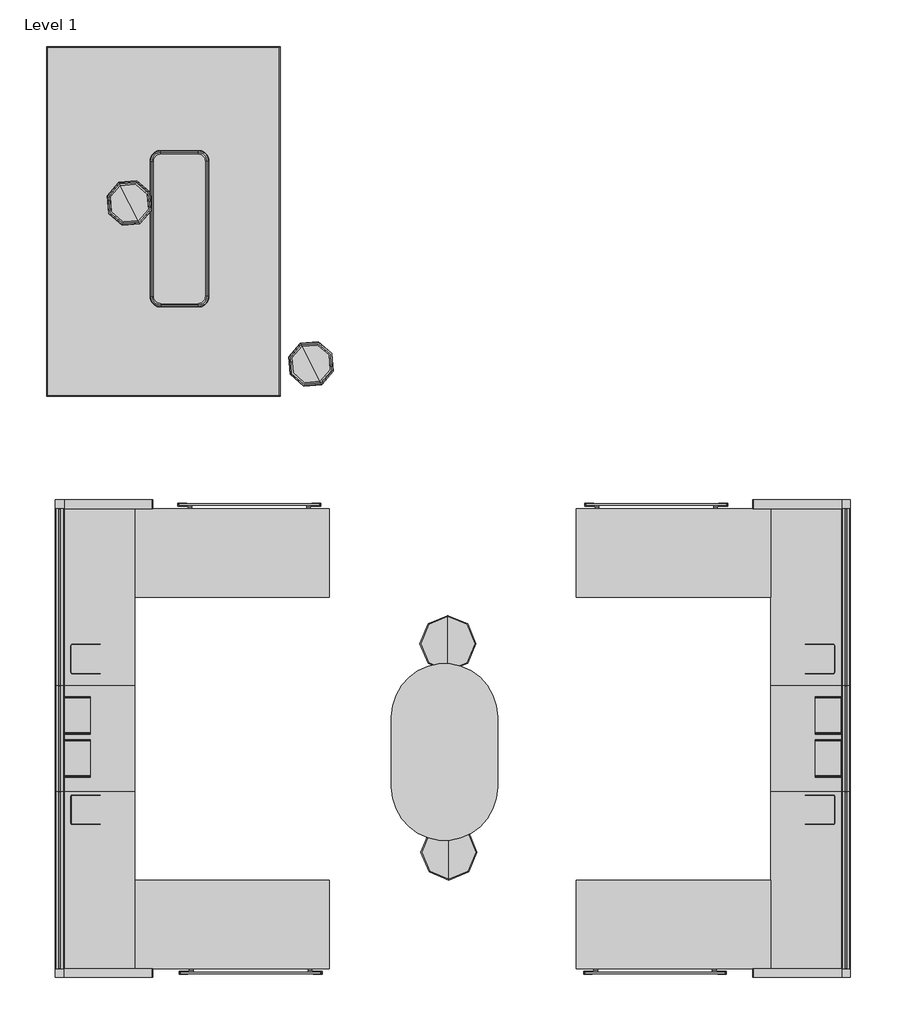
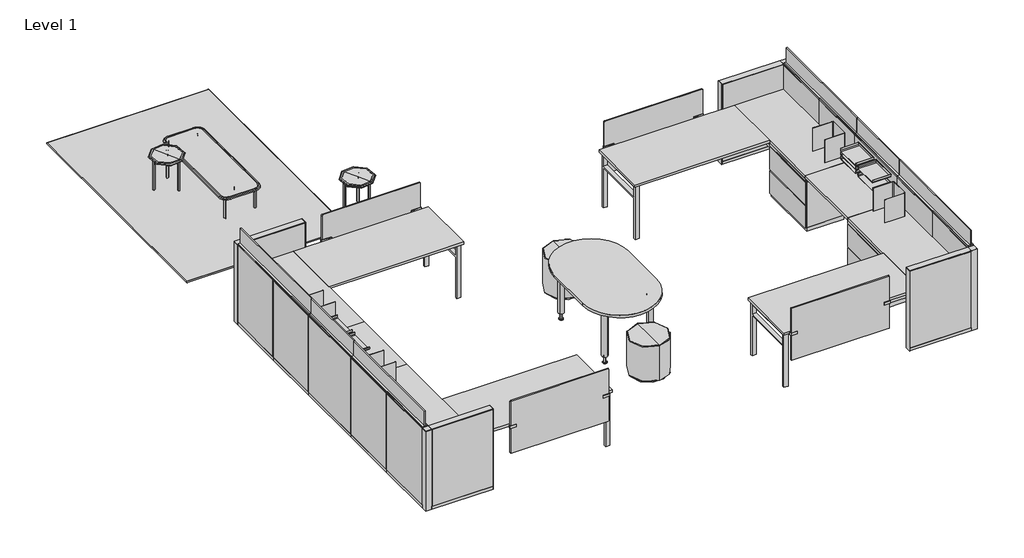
# One storey, incomplete: 65 furniture elements.
"""IFC4 building model written with IfcOpenShell, lengths in millimetres."""

from ifc_helpers import new_model, si_unit, origin, place, context, project, spatial, transform, mapped, element, save
from components import furniture_608d79b6, furniture_7d3a10d5, furniture_90913c63, furniture_8b4d0ae7, furniture_38547229, furniture_16in_d_table_f877d0f4, furniture_24d_36w_b6dfe4a4, furniture_24d_36w_c37be17f, furniture_24d_60w_d971fc55, furniture_24d_60w_0d21047a, furniture_66l_30w_afd0f819, furniture_66l_30w_0c5df5db, haworth_belong_cubby_de75faa0, haworth_belong_cubby_aa74167b, haworth_belong_screen_special_back_or_end_screen_74b999c0, haworth_belong_screen_special_back_or_end_screen_09786dff, haworth_belong_tool_trayshelf_hanging_document_tray_419b277c, haworth_belong_tool_trayshelf_hanging_document_tray_81856eff, haworth_compose_panel_post_42h_90_degree_03610c70, haworth_compose_panel_post_42h_90_degree_3cbd3f14, haworth_compose_panel_solid_42h_30w_ff8150bf, haworth_compose_panel_solid_42h_30w_9003e319, haworth_compose_panel_solid_42h_30w_4c1c5ae4, haworth_compose_panel_solid_42h_30w_888dd31b, haworth_compose_panel_solid_42h_30w_a400c964, haworth_compose_panel_solid_42h_30w_086e4ea6, haworth_compose_panel_solid_42h_36w_34ccc55c, haworth_compose_panel_solid_42h_36w_8f605ba9, haworth_compose_panel_stackframelessglass_8h_36w_6a189481, haworth_compose_panel_stackframelessglass_8h_36w_3db198fe, haworth_compose_panel_stackframelessglass_8h_60w_76307441, haworth_compose_panel_stackframelessglass_8h_60w_c9df2e2f, haworth_compose_worksurface_rectangular_60w_24d_c3f7eb78, haworth_compose_worksurface_rectangular_60w_24d_ae5aded8, rectangle_93412eb4

model = new_model("IFC4")

# Units and contexts
model_context = context("Model", 3, world=origin())
ifc_project = project(units=[si_unit("LENGTHUNIT", "METRE", prefix="MILLI")], contexts=[model_context])

# Site, building, storey
site = spatial("IfcSite", under=ifc_project)
building = spatial("IfcBuilding", under=site)
storey = spatial("IfcBuildingStorey", under=building, Name="Level 1", Elevation=0.0)

# Furniture
placement = place(None, origin())
furniture_shape = furniture_608d79b6(model_context)
element("IfcFurniture", 1, ObjectType="Haworth_GAN_Cord_Rugs : HCGN-COAR-P Area Rug", at=placement, inside=storey, context=model_context, shape_type="MappedRepresentation", body=[
    mapped(furniture_shape, transform((5308.8499608, 22451.5916897, 0.0), x_axis=(0.0, 1.0, 0.0), y_axis=(-1.0, 0.0, 0.0), z_axis=(0.0, 0.0, 1.0))),
])
furniture_2_shape = furniture_7d3a10d5(model_context)
element("IfcFurniture", 2, ObjectType="Haworth_BuzziSpot : HCBZ-STPF-2", at=placement, inside=storey, context=model_context, shape_type="MappedRepresentation", body=[
    mapped(furniture_2_shape, transform((7189.0356873, 19970.6411939, 0.0), x_axis=(1.0, 0.0, 0.0), y_axis=(0.0, 1.0, 0.0), z_axis=(0.0, 0.0, 1.0))),
])
element("IfcFurniture", 3, ObjectType="Haworth_BuzziSpot : HCBZ-STPF-2", at=placement, inside=storey, context=model_context, shape_type="MappedRepresentation", body=[
    mapped(furniture_2_shape, transform((7198.4479844, 18173.2341909, 0.0), x_axis=(1.0, 0.0, 0.0), y_axis=(0.0, 1.0, 0.0), z_axis=(0.0, 0.0, 1.0))),
])
furniture_3_shape = furniture_90913c63(model_context)
element("IfcFurniture", 4, ObjectType="Haworth_XSeries_LateralFile : 18d 30w 27h - Proud Style", at=placement, inside=storey, context=model_context, shape_type="MappedRepresentation", body=[
    mapped(furniture_3_shape, transform((11018.7053931, 18358.6504113, 0.0), x_axis=(0.0, -1.0, 0.0), y_axis=(1.0, 0.0, 0.0), z_axis=(0.0, 0.0, 1.0))),
])
element("IfcFurniture", 5, ObjectType="Haworth_XSeries_LateralFile : 18d 30w 27h - Proud Style", at=placement, inside=storey, context=model_context, shape_type="MappedRepresentation", body=[
    mapped(furniture_3_shape, transform((4587.3900706, 20031.8754113, 0.0), x_axis=(0.0, 1.0, 0.0), y_axis=(-1.0, 0.0, 0.0), z_axis=(0.0, 0.0, 1.0))),
])
furniture_4_shape = furniture_8b4d0ae7(model_context)
element("IfcFurniture", 6, ObjectType="Haworth_XSeries_LateralFile : 18d 30w 27h - Proud Style", at=placement, inside=storey, context=model_context, shape_type="MappedRepresentation", body=[
    mapped(furniture_4_shape, transform((11018.7053931, 20031.8754113, 0.0), x_axis=(0.0, 1.0, 0.0), y_axis=(-1.0, 0.0, 0.0), z_axis=(0.0, 0.0, 1.0))),
])
element("IfcFurniture", 7, ObjectType="Haworth_XSeries_LateralFile : 18d 30w 27h - Proud Style", at=placement, inside=storey, context=model_context, shape_type="MappedRepresentation", body=[
    mapped(furniture_4_shape, transform((4587.3900706, 18358.6504113, 0.0), x_axis=(0.0, -1.0, 0.0), y_axis=(1.0, 0.0, 0.0), z_axis=(0.0, 0.0, 1.0))),
])
furniture_5_shape = furniture_38547229(model_context)
element("IfcFurniture", 8, ObjectType="Haworth_JiveTable_RacetrackLegs : 36d 60w 29h - Post Round Base - With Glides", at=placement, inside=storey, context=model_context, shape_type="MappedRepresentation", body=[
    mapped(furniture_5_shape, transform((7731.7219438, 19079.9255493, 0.0), x_axis=(0.0, -1.0, 0.0), y_axis=(1.0, 0.0, 0.0), z_axis=(0.0, 0.0, 1.0))),
])
furniture_16in_d_table_shape = furniture_16in_d_table_f877d0f4(model_context)
element("IfcFurniture", 9, ObjectType="Haworth_Openest_SprigTable_Round : 16in D Table", at=placement, inside=storey, context=model_context, shape_type="MappedRepresentation", body=[
    mapped(furniture_16in_d_table_shape, transform((5015.8790101, 23811.3570768, 0.0), x_axis=(0.4533338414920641, -0.8913408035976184, 0.0), y_axis=(0.8913408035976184, 0.4533338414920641, 0.0), z_axis=(0.0, 0.0, 1.0))),
])
element("IfcFurniture", 10, ObjectType="Haworth_Openest_SprigTable_Round : 16in D Table", at=placement, inside=storey, context=model_context, shape_type="MappedRepresentation", body=[
    mapped(furniture_16in_d_table_shape, transform((6581.4379797, 22425.1126253, 0.0), x_axis=(0.4533338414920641, -0.8913408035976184, 0.0), y_axis=(0.8913408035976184, 0.4533338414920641, 0.0), z_axis=(0.0, 0.0, 1.0))),
])
furniture_24d_36w_shape = furniture_24d_36w_b6dfe4a4(model_context)
element("IfcFurniture", 11, ObjectType="Haworth_Masters_StorageTop_Rectangular1 : 24d 36w", at=placement, inside=storey, context=model_context, shape_type="MappedRepresentation", body=[
    mapped(furniture_24d_36w_shape, transform((11560.0428931, 19931.8629113, 12.7), x_axis=(0.0, -1.0, 0.0), y_axis=(1.0, 0.0, 0.0), z_axis=(0.0, 0.0, 1.0))),
])
furniture_24d_36w_2_shape = furniture_24d_36w_c37be17f(model_context)
element("IfcFurniture", 12, ObjectType="Haworth_Masters_StorageTop_Rectangular1 : 24d 36w", at=placement, inside=storey, context=model_context, shape_type="MappedRepresentation", body=[
    mapped(furniture_24d_36w_2_shape, transform((4046.0525706, 19931.8629113, 12.7), x_axis=(0.0, -1.0, 0.0), y_axis=(1.0, 0.0, 0.0), z_axis=(0.0, 0.0, 1.0))),
])
furniture_24d_60w_shape = furniture_24d_60w_d971fc55(model_context)
element("IfcFurniture", 13, ObjectType="Haworth_Masters_StorageTop_Rectangular1 : 24d 60w", at=placement, inside=storey, context=model_context, shape_type="MappedRepresentation", body=[
    mapped(furniture_24d_60w_shape, transform((11560.0784531, 21152.1509503, -50.8), x_axis=(0.0, -1.0, 0.0), y_axis=(1.0, 0.0, 0.0), z_axis=(0.0, 0.0, 1.0))),
])
furniture_24d_60w_2_shape = furniture_24d_60w_0d21047a(model_context)
element("IfcFurniture", 14, ObjectType="Haworth_Masters_StorageTop_Rectangular1 : 24d 60w", at=placement, inside=storey, context=model_context, shape_type="MappedRepresentation", body=[
    mapped(furniture_24d_60w_2_shape, transform((4046.0170106, 21152.1509503, -50.8), x_axis=(0.0, -1.0, 0.0), y_axis=(1.0, 0.0, 0.0), z_axis=(0.0, 0.0, 1.0))),
])
furniture_66l_30w_shape = furniture_66l_30w_afd0f819(model_context)
element("IfcFurniture", 15, ObjectType="Haworth_Compose_Worksurface_RectangularConvergent : 66L 30w", at=placement, inside=storey, context=model_context, shape_type="MappedRepresentation", body=[
    mapped(furniture_66l_30w_shape, transform((9704.2909531, 20794.9634503, 0.0), x_axis=(0.0, -1.0, 0.0), y_axis=(1.0, 0.0, 0.0), z_axis=(0.0, 0.0, 1.0))),
])
element("IfcFurniture", 16, ObjectType="Haworth_Compose_Worksurface_RectangularConvergent : 66L 30w", at=placement, inside=storey, context=model_context, shape_type="MappedRepresentation", body=[
    mapped(furniture_66l_30w_shape, transform((9704.2909531, 17594.5637398, 0.0), x_axis=(0.0, -1.0, 0.0), y_axis=(1.0, 0.0, 0.0), z_axis=(0.0, 0.0, 1.0))),
])
furniture_66l_30w_2_shape = furniture_66l_30w_0c5df5db(model_context)
element("IfcFurniture", 17, ObjectType="Haworth_Compose_Worksurface_RectangularConvergent : 66L 30w", at=placement, inside=storey, context=model_context, shape_type="MappedRepresentation", body=[
    mapped(furniture_66l_30w_2_shape, transform((5901.8045106, 20794.9634503, 0.0), x_axis=(0.0, -1.0, 0.0), y_axis=(1.0, 0.0, 0.0), z_axis=(0.0, 0.0, 1.0))),
])
element("IfcFurniture", 18, ObjectType="Haworth_Compose_Worksurface_RectangularConvergent : 66L 30w", at=placement, inside=storey, context=model_context, shape_type="MappedRepresentation", body=[
    mapped(furniture_66l_30w_2_shape, transform((5901.8045106, 17594.5637398, 0.0), x_axis=(0.0, -1.0, 0.0), y_axis=(1.0, 0.0, 0.0), z_axis=(0.0, 0.0, 1.0))),
])
haworth_belong_cubby_shape = haworth_belong_cubby_de75faa0(model_context)
element("IfcFurniture", 19, ObjectType="Haworth_Belong_Cubby : 12h - No Slots", at=placement, inside=storey, context=model_context, shape_type="MappedRepresentation", body=[
    mapped(haworth_belong_cubby_shape, transform((11095.5931868, 19881.4551466, 127.0), x_axis=(0.0, -1.0, 0.0), y_axis=(1.0, 0.0, 0.0), z_axis=(0.0, 0.0, 1.0))),
])
element("IfcFurniture", 20, ObjectType="Haworth_Belong_Cubby : 12h - No Slots", at=placement, inside=storey, context=model_context, shape_type="MappedRepresentation", body=[
    mapped(haworth_belong_cubby_shape, transform((11094.0056868, 18582.4436683, 127.0), x_axis=(0.0, -1.0, 0.0), y_axis=(1.0, 0.0, 0.0), z_axis=(0.0, 0.0, 1.0))),
])
haworth_belong_cubby_2_shape = haworth_belong_cubby_aa74167b(model_context)
element("IfcFurniture", 21, ObjectType="Haworth_Belong_Cubby : 12h - No Slots", at=placement, inside=storey, context=model_context, shape_type="MappedRepresentation", body=[
    mapped(haworth_belong_cubby_2_shape, transform((4510.5022769, 19881.4551466, 127.0), x_axis=(0.0, -1.0, 0.0), y_axis=(1.0, 0.0, 0.0), z_axis=(0.0, 0.0, 1.0))),
])
element("IfcFurniture", 22, ObjectType="Haworth_Belong_Cubby : 12h - No Slots", at=placement, inside=storey, context=model_context, shape_type="MappedRepresentation", body=[
    mapped(haworth_belong_cubby_2_shape, transform((4512.0897769, 18582.4436683, 127.0), x_axis=(0.0, -1.0, 0.0), y_axis=(1.0, 0.0, 0.0), z_axis=(0.0, 0.0, 1.0))),
])
haworth_belong_screen_special_back_or_end_screen_shape = haworth_belong_screen_special_back_or_end_screen_74b999c0(model_context)
element("IfcFurniture", 23, ObjectType="Haworth_Belong_Screen_Special : Back or End Screen", at=placement, inside=storey, context=model_context, shape_type="MappedRepresentation", body=[
    mapped(haworth_belong_screen_special_back_or_end_screen_shape, transform((9524.0437436, 21212.4124503, 0.0), x_axis=(-1.0, 0.0, 0.0), y_axis=(0.0, -1.0, 0.0), z_axis=(0.0, 0.0, 1.0))),
])
element("IfcFurniture", 24, ObjectType="Haworth_Belong_Screen_Special : Back or End Screen", at=placement, inside=storey, context=model_context, shape_type="MappedRepresentation", body=[
    mapped(haworth_belong_screen_special_back_or_end_screen_shape, transform((6093.1162901, 17176.7334482, 0.0), x_axis=(1.0, 0.0, 0.0), y_axis=(0.0, 1.0, 0.0), z_axis=(0.0, 0.0, 1.0))),
])
haworth_belong_screen_special_back_or_end_screen_2_shape = haworth_belong_screen_special_back_or_end_screen_09786dff(model_context)
element("IfcFurniture", 25, ObjectType="Haworth_Belong_Screen_Special : Back or End Screen", at=placement, inside=storey, context=model_context, shape_type="MappedRepresentation", body=[
    mapped(haworth_belong_screen_special_back_or_end_screen_2_shape, transform((9512.9791736, 17176.7334482, 0.0), x_axis=(-1.0, 0.0, 0.0), y_axis=(0.0, -1.0, 0.0), z_axis=(0.0, 0.0, 1.0))),
])
element("IfcFurniture", 26, ObjectType="Haworth_Belong_Screen_Special : Back or End Screen", at=placement, inside=storey, context=model_context, shape_type="MappedRepresentation", body=[
    mapped(haworth_belong_screen_special_back_or_end_screen_2_shape, transform((6082.0517201, 21212.4124503, 0.0), x_axis=(1.0, 0.0, 0.0), y_axis=(0.0, 1.0, 0.0), z_axis=(0.0, 0.0, 1.0))),
])
haworth_belong_tool_trayshelf_hanging_document_tray_shape = haworth_belong_tool_trayshelf_hanging_document_tray_419b277c(model_context)
element("IfcFurniture", 27, ObjectType="Haworth_Belong_Tool_TrayShelf : Hanging Document Tray", at=placement, inside=storey, context=model_context, shape_type="MappedRepresentation", body=[
    mapped(haworth_belong_tool_trayshelf_hanging_document_tray_shape, transform((11153.2545106, 19560.383415, 878.68125), x_axis=(0.0, -1.0, 0.0), y_axis=(1.0, 0.0, 0.0), z_axis=(0.0, 0.0, 1.0))),
])
element("IfcFurniture", 28, ObjectType="Haworth_Belong_Tool_TrayShelf : Hanging Document Tray", at=placement, inside=storey, context=model_context, shape_type="MappedRepresentation", body=[
    mapped(haworth_belong_tool_trayshelf_hanging_document_tray_shape, transform((11153.2545106, 19560.383415, 980.28125), x_axis=(0.0, -1.0, 0.0), y_axis=(1.0, 0.0, 0.0), z_axis=(0.0, 0.0, 1.0))),
])
element("IfcFurniture", 29, ObjectType="Haworth_Belong_Tool_TrayShelf : Hanging Document Tray", at=placement, inside=storey, context=model_context, shape_type="MappedRepresentation", body=[
    mapped(haworth_belong_tool_trayshelf_hanging_document_tray_shape, transform((11153.2545106, 19190.0336268, 980.28125), x_axis=(0.0, -1.0, 0.0), y_axis=(1.0, 0.0, 0.0), z_axis=(0.0, 0.0, 1.0))),
])
element("IfcFurniture", 30, ObjectType="Haworth_Belong_Tool_TrayShelf : Hanging Document Tray", at=placement, inside=storey, context=model_context, shape_type="MappedRepresentation", body=[
    mapped(haworth_belong_tool_trayshelf_hanging_document_tray_shape, transform((11153.2545106, 19190.0336268, 878.68125), x_axis=(0.0, -1.0, 0.0), y_axis=(1.0, 0.0, 0.0), z_axis=(0.0, 0.0, 1.0))),
])
element("IfcFurniture", 31, ObjectType="Haworth_Belong_Tool_TrayShelf : Hanging Document Tray", at=placement, inside=storey, context=model_context, shape_type="MappedRepresentation", body=[
    mapped(haworth_belong_tool_trayshelf_hanging_document_tray_shape, transform((4452.8409531, 19230.183415, 929.48125), x_axis=(0.0, 1.0, 0.0), y_axis=(-1.0, 0.0, 0.0), z_axis=(0.0, 0.0, 1.0))),
])
haworth_belong_tool_trayshelf_hanging_document_tray_2_shape = haworth_belong_tool_trayshelf_hanging_document_tray_81856eff(model_context)
element("IfcFurniture", 32, ObjectType="Haworth_Belong_Tool_TrayShelf : Hanging Document Tray", at=placement, inside=storey, context=model_context, shape_type="MappedRepresentation", body=[
    mapped(haworth_belong_tool_trayshelf_hanging_document_tray_2_shape, transform((11153.2545106, 19230.183415, 929.48125), x_axis=(0.0, 1.0, 0.0), y_axis=(-1.0, 0.0, 0.0), z_axis=(0.0, 0.0, 1.0))),
])
element("IfcFurniture", 33, ObjectType="Haworth_Belong_Tool_TrayShelf : Hanging Document Tray", at=placement, inside=storey, context=model_context, shape_type="MappedRepresentation", body=[
    mapped(haworth_belong_tool_trayshelf_hanging_document_tray_2_shape, transform((4452.8409531, 19560.383415, 878.68125), x_axis=(0.0, -1.0, 0.0), y_axis=(1.0, 0.0, 0.0), z_axis=(0.0, 0.0, 1.0))),
])
element("IfcFurniture", 34, ObjectType="Haworth_Belong_Tool_TrayShelf : Hanging Document Tray", at=placement, inside=storey, context=model_context, shape_type="MappedRepresentation", body=[
    mapped(haworth_belong_tool_trayshelf_hanging_document_tray_2_shape, transform((4452.8409531, 19560.383415, 980.28125), x_axis=(0.0, -1.0, 0.0), y_axis=(1.0, 0.0, 0.0), z_axis=(0.0, 0.0, 1.0))),
])
element("IfcFurniture", 35, ObjectType="Haworth_Belong_Tool_TrayShelf : Hanging Document Tray", at=placement, inside=storey, context=model_context, shape_type="MappedRepresentation", body=[
    mapped(haworth_belong_tool_trayshelf_hanging_document_tray_2_shape, transform((4452.8409531, 19190.0336268, 980.28125), x_axis=(0.0, -1.0, 0.0), y_axis=(1.0, 0.0, 0.0), z_axis=(0.0, 0.0, 1.0))),
])
element("IfcFurniture", 36, ObjectType="Haworth_Belong_Tool_TrayShelf : Hanging Document Tray", at=placement, inside=storey, context=model_context, shape_type="MappedRepresentation", body=[
    mapped(haworth_belong_tool_trayshelf_hanging_document_tray_2_shape, transform((4452.8409531, 19190.0336268, 878.68125), x_axis=(0.0, -1.0, 0.0), y_axis=(1.0, 0.0, 0.0), z_axis=(0.0, 0.0, 1.0))),
])
haworth_compose_panel_post_42h_90_degree_shape = haworth_compose_panel_post_42h_90_degree_03610c70(model_context)
element("IfcFurniture", 37, ObjectType="Haworth_Compose_Panel_Post : 42h - 90 Degree", at=placement, inside=storey, context=model_context, shape_type="MappedRepresentation", body=[
    mapped(haworth_compose_panel_post_42h_90_degree_shape, transform((11229.4544849, 21214.0637121, 0.0), x_axis=(-1.0, 0.0, 0.0), y_axis=(0.0, -1.0, 0.0), z_axis=(0.0, 0.0, 1.0))),
])
element("IfcFurniture", 38, ObjectType="Haworth_Compose_Panel_Post : 42h - 90 Degree", at=placement, inside=storey, context=model_context, shape_type="MappedRepresentation", body=[
    mapped(haworth_compose_panel_post_42h_90_degree_shape, transform((11229.4544977, 17175.4637249, 0.0), x_axis=(-1.0, 0.0, 0.0), y_axis=(0.0, -1.0, 0.0), z_axis=(0.0, 0.0, 1.0))),
])
haworth_compose_panel_post_42h_90_degree_2_shape = haworth_compose_panel_post_42h_90_degree_3cbd3f14(model_context)
element("IfcFurniture", 39, ObjectType="Haworth_Compose_Panel_Post : 42h - 90 Degree", at=placement, inside=storey, context=model_context, shape_type="MappedRepresentation", body=[
    mapped(haworth_compose_panel_post_42h_90_degree_2_shape, transform((4376.6409788, 21214.0637121, 0.0), x_axis=(1.0, 0.0, 0.0), y_axis=(0.0, 1.0, 0.0), z_axis=(0.0, 0.0, 1.0))),
])
element("IfcFurniture", 40, ObjectType="Haworth_Compose_Panel_Post : 42h - 90 Degree", at=placement, inside=storey, context=model_context, shape_type="MappedRepresentation", body=[
    mapped(haworth_compose_panel_post_42h_90_degree_2_shape, transform((4376.640966, 17175.4637249, 0.0), x_axis=(1.0, 0.0, 0.0), y_axis=(0.0, 1.0, 0.0), z_axis=(0.0, 0.0, 1.0))),
])
haworth_compose_panel_solid_42h_30w_shape = haworth_compose_panel_solid_42h_30w_ff8150bf(model_context)
element("IfcFurniture", 41, ObjectType="Haworth_Compose_Panel_Solid : 42h 30w", at=placement, inside=storey, context=model_context, shape_type="MappedRepresentation", body=[
    mapped(haworth_compose_panel_solid_42h_30w_shape, transform((11191.3545106, 20797.4039894, 0.0), x_axis=(0.0, -1.0, 0.0), y_axis=(1.0, 0.0, 0.0), z_axis=(0.0, 0.0, 1.0))),
])
element("IfcFurniture", 42, ObjectType="Haworth_Compose_Panel_Solid : 42h 30w", at=placement, inside=storey, context=model_context, shape_type="MappedRepresentation", body=[
    mapped(haworth_compose_panel_solid_42h_30w_shape, transform((11191.3545106, 20035.4039894, 0.0), x_axis=(0.0, -1.0, 0.0), y_axis=(1.0, 0.0, 0.0), z_axis=(0.0, 0.0, 1.0))),
])
element("IfcFurniture", 43, ObjectType="Haworth_Compose_Panel_Solid : 42h 30w", at=placement, inside=storey, context=model_context, shape_type="MappedRepresentation", body=[
    mapped(haworth_compose_panel_solid_42h_30w_shape, transform((11191.3544857, 18359.0039894, 0.0), x_axis=(0.0, -1.0, 0.0), y_axis=(1.0, 0.0, 0.0), z_axis=(0.0, 0.0, 1.0))),
])
element("IfcFurniture", 44, ObjectType="Haworth_Compose_Panel_Solid : 42h 30w", at=placement, inside=storey, context=model_context, shape_type="MappedRepresentation", body=[
    mapped(haworth_compose_panel_solid_42h_30w_shape, transform((11191.3544857, 17597.0040151, 0.0), x_axis=(0.0, -1.0, 0.0), y_axis=(1.0, 0.0, 0.0), z_axis=(0.0, 0.0, 1.0))),
])
haworth_compose_panel_solid_42h_30w_2_shape = haworth_compose_panel_solid_42h_30w_9003e319(model_context)
element("IfcFurniture", 45, ObjectType="Haworth_Compose_Panel_Solid : 42h 30w", at=placement, inside=storey, context=model_context, shape_type="MappedRepresentation", body=[
    mapped(haworth_compose_panel_solid_42h_30w_2_shape, transform((10769.8142076, 17175.4637249, 0.0), x_axis=(1.0, 0.0, 0.0), y_axis=(0.0, 1.0, 0.0), z_axis=(0.0, 0.0, 1.0))),
])
haworth_compose_panel_solid_42h_30w_3_shape = haworth_compose_panel_solid_42h_30w_4c1c5ae4(model_context)
element("IfcFurniture", 46, ObjectType="Haworth_Compose_Panel_Solid : 42h 30w", at=placement, inside=storey, context=model_context, shape_type="MappedRepresentation", body=[
    mapped(haworth_compose_panel_solid_42h_30w_3_shape, transform((10774.6947751, 21214.0634503, 0.0), x_axis=(-1.0, 0.0, 0.0), y_axis=(0.0, -1.0, 0.0), z_axis=(0.0, 0.0, 1.0))),
])
haworth_compose_panel_solid_42h_30w_4_shape = haworth_compose_panel_solid_42h_30w_888dd31b(model_context)
element("IfcFurniture", 47, ObjectType="Haworth_Compose_Panel_Solid : 42h 30w", at=placement, inside=storey, context=model_context, shape_type="MappedRepresentation", body=[
    mapped(haworth_compose_panel_solid_42h_30w_4_shape, transform((4414.7409531, 20797.4039894, 0.0), x_axis=(0.0, -1.0, 0.0), y_axis=(1.0, 0.0, 0.0), z_axis=(0.0, 0.0, 1.0))),
])
element("IfcFurniture", 48, ObjectType="Haworth_Compose_Panel_Solid : 42h 30w", at=placement, inside=storey, context=model_context, shape_type="MappedRepresentation", body=[
    mapped(haworth_compose_panel_solid_42h_30w_4_shape, transform((4414.7409531, 20035.4039894, 0.0), x_axis=(0.0, -1.0, 0.0), y_axis=(1.0, 0.0, 0.0), z_axis=(0.0, 0.0, 1.0))),
])
element("IfcFurniture", 49, ObjectType="Haworth_Compose_Panel_Solid : 42h 30w", at=placement, inside=storey, context=model_context, shape_type="MappedRepresentation", body=[
    mapped(haworth_compose_panel_solid_42h_30w_4_shape, transform((4414.740978, 18359.0039894, 0.0), x_axis=(0.0, -1.0, 0.0), y_axis=(1.0, 0.0, 0.0), z_axis=(0.0, 0.0, 1.0))),
])
element("IfcFurniture", 50, ObjectType="Haworth_Compose_Panel_Solid : 42h 30w", at=placement, inside=storey, context=model_context, shape_type="MappedRepresentation", body=[
    mapped(haworth_compose_panel_solid_42h_30w_4_shape, transform((4414.740978, 17597.0040151, 0.0), x_axis=(0.0, -1.0, 0.0), y_axis=(1.0, 0.0, 0.0), z_axis=(0.0, 0.0, 1.0))),
])
haworth_compose_panel_solid_42h_30w_5_shape = haworth_compose_panel_solid_42h_30w_a400c964(model_context)
element("IfcFurniture", 51, ObjectType="Haworth_Compose_Panel_Solid : 42h 30w", at=placement, inside=storey, context=model_context, shape_type="MappedRepresentation", body=[
    mapped(haworth_compose_panel_solid_42h_30w_5_shape, transform((4831.4006886, 21214.0634503, 0.0), x_axis=(1.0, 0.0, 0.0), y_axis=(0.0, 1.0, 0.0), z_axis=(0.0, 0.0, 1.0))),
])
haworth_compose_panel_solid_42h_30w_6_shape = haworth_compose_panel_solid_42h_30w_086e4ea6(model_context)
element("IfcFurniture", 52, ObjectType="Haworth_Compose_Panel_Solid : 42h 30w", at=placement, inside=storey, context=model_context, shape_type="MappedRepresentation", body=[
    mapped(haworth_compose_panel_solid_42h_30w_6_shape, transform((4836.2812561, 17175.4637249, 0.0), x_axis=(-1.0, 0.0, 0.0), y_axis=(0.0, -1.0, 0.0), z_axis=(0.0, 0.0, 1.0))),
])
haworth_compose_panel_solid_42h_36w_shape = haworth_compose_panel_solid_42h_36w_34ccc55c(model_context)
element("IfcFurniture", 53, ObjectType="Haworth_Compose_Panel_Solid : 42h 36w", at=placement, inside=storey, context=model_context, shape_type="MappedRepresentation", body=[
    mapped(haworth_compose_panel_solid_42h_36w_shape, transform((11191.3545106, 19197.2039894, 0.0), x_axis=(0.0, -1.0, 0.0), y_axis=(1.0, 0.0, 0.0), z_axis=(0.0, 0.0, 1.0))),
])
haworth_compose_panel_solid_42h_36w_2_shape = haworth_compose_panel_solid_42h_36w_8f605ba9(model_context)
element("IfcFurniture", 54, ObjectType="Haworth_Compose_Panel_Solid : 42h 36w", at=placement, inside=storey, context=model_context, shape_type="MappedRepresentation", body=[
    mapped(haworth_compose_panel_solid_42h_36w_2_shape, transform((4414.7409531, 19197.2039894, 0.0), x_axis=(0.0, -1.0, 0.0), y_axis=(1.0, 0.0, 0.0), z_axis=(0.0, 0.0, 1.0))),
])
haworth_compose_panel_stackframelessglass_8h_36w_shape = haworth_compose_panel_stackframelessglass_8h_36w_6a189481(model_context)
element("IfcFurniture", 55, ObjectType="Haworth_Compose_Panel_StackFramelessGlass : 8h 36w", at=placement, inside=storey, context=model_context, shape_type="MappedRepresentation", body=[
    mapped(haworth_compose_panel_stackframelessglass_8h_36w_shape, transform((11212.3138451, 19197.2039638, 0.0), x_axis=(0.0, -1.0, 0.0), y_axis=(1.0, 0.0, 0.0), z_axis=(0.0, 0.0, 1.0))),
])
haworth_compose_panel_stackframelessglass_8h_36w_2_shape = haworth_compose_panel_stackframelessglass_8h_36w_3db198fe(model_context)
element("IfcFurniture", 56, ObjectType="Haworth_Compose_Panel_StackFramelessGlass : 8h 36w", at=placement, inside=storey, context=model_context, shape_type="MappedRepresentation", body=[
    mapped(haworth_compose_panel_stackframelessglass_8h_36w_2_shape, transform((4393.7816186, 19197.2039638, 0.0), x_axis=(0.0, -1.0, 0.0), y_axis=(1.0, 0.0, 0.0), z_axis=(0.0, 0.0, 1.0))),
])
haworth_compose_panel_stackframelessglass_8h_60w_shape = haworth_compose_panel_stackframelessglass_8h_60w_76307441(model_context)
element("IfcFurniture", 57, ObjectType="Haworth_Compose_Panel_StackFramelessGlass : 8h 60w", at=placement, inside=storey, context=model_context, shape_type="MappedRepresentation", body=[
    mapped(haworth_compose_panel_stackframelessglass_8h_60w_shape, transform((11212.3138451, 17978.0040151, 0.0), x_axis=(0.0, -1.0, 0.0), y_axis=(1.0, 0.0, 0.0), z_axis=(0.0, 0.0, 1.0))),
])
element("IfcFurniture", 58, ObjectType="Haworth_Compose_Panel_StackFramelessGlass : 8h 60w", at=placement, inside=storey, context=model_context, shape_type="MappedRepresentation", body=[
    mapped(haworth_compose_panel_stackframelessglass_8h_60w_shape, transform((4393.7816186, 20411.5233835, 0.0), x_axis=(0.0, 1.0, 0.0), y_axis=(-1.0, 0.0, 0.0), z_axis=(0.0, 0.0, 1.0))),
])
haworth_compose_panel_stackframelessglass_8h_60w_2_shape = haworth_compose_panel_stackframelessglass_8h_60w_c9df2e2f(model_context)
element("IfcFurniture", 59, ObjectType="Haworth_Compose_Panel_StackFramelessGlass : 8h 60w", at=placement, inside=storey, context=model_context, shape_type="MappedRepresentation", body=[
    mapped(haworth_compose_panel_stackframelessglass_8h_60w_2_shape, transform((11212.3138451, 20411.5233835, 0.0), x_axis=(0.0, 1.0, 0.0), y_axis=(-1.0, 0.0, 0.0), z_axis=(0.0, 0.0, 1.0))),
])
element("IfcFurniture", 60, ObjectType="Haworth_Compose_Panel_StackFramelessGlass : 8h 60w", at=placement, inside=storey, context=model_context, shape_type="MappedRepresentation", body=[
    mapped(haworth_compose_panel_stackframelessglass_8h_60w_2_shape, transform((4393.7816186, 17978.0040151, 0.0), x_axis=(0.0, -1.0, 0.0), y_axis=(1.0, 0.0, 0.0), z_axis=(0.0, 0.0, 1.0))),
])
haworth_compose_worksurface_rectangular_60w_24d_shape = haworth_compose_worksurface_rectangular_60w_24d_c3f7eb78(model_context)
element("IfcFurniture", 61, ObjectType="Haworth_Compose_Worksurface_Rectangular : 60w 24d", at=placement, inside=storey, context=model_context, shape_type="MappedRepresentation", body=[
    mapped(haworth_compose_worksurface_rectangular_60w_24d_shape, transform((10847.2553931, 20412.8754113, 0.0), x_axis=(0.0, -1.0, 0.0), y_axis=(1.0, 0.0, 0.0), z_axis=(0.0, 0.0, 1.0))),
])
element("IfcFurniture", 62, ObjectType="Haworth_Compose_Worksurface_Rectangular : 60w 24d", at=placement, inside=storey, context=model_context, shape_type="MappedRepresentation", body=[
    mapped(haworth_compose_worksurface_rectangular_60w_24d_shape, transform((4758.8400706, 17974.4754113, 0.0), x_axis=(0.0, 1.0, 0.0), y_axis=(-1.0, 0.0, 0.0), z_axis=(0.0, 0.0, 1.0))),
])
haworth_compose_worksurface_rectangular_60w_24d_2_shape = haworth_compose_worksurface_rectangular_60w_24d_ae5aded8(model_context)
element("IfcFurniture", 63, ObjectType="Haworth_Compose_Worksurface_Rectangular : 60w 24d", at=placement, inside=storey, context=model_context, shape_type="MappedRepresentation", body=[
    mapped(haworth_compose_worksurface_rectangular_60w_24d_2_shape, transform((10847.2553931, 17974.4754113, 0.0), x_axis=(0.0, 1.0, 0.0), y_axis=(-1.0, 0.0, 0.0), z_axis=(0.0, 0.0, 1.0))),
])
element("IfcFurniture", 64, ObjectType="Haworth_Compose_Worksurface_Rectangular : 60w 24d", at=placement, inside=storey, context=model_context, shape_type="MappedRepresentation", body=[
    mapped(haworth_compose_worksurface_rectangular_60w_24d_2_shape, transform((4758.8400706, 20412.8754113, 0.0), x_axis=(0.0, -1.0, 0.0), y_axis=(1.0, 0.0, 0.0), z_axis=(0.0, 0.0, 1.0))),
])
ifc_rectangle_shape = rectangle_93412eb4(model_context)
element("IfcFurniture", 65, ObjectType="Haworth_Openest_SprigTable_Rectangle : Rectangle", at=placement, inside=storey, context=model_context, shape_type="MappedRepresentation", body=[
    mapped(ifc_rectangle_shape, transform((5448.452361, 23589.7036963, 0.0), x_axis=(0.0, 1.0, 0.0), y_axis=(-1.0, 0.0, 0.0), z_axis=(0.0, 0.0, 1.0))),
])

save(model, "model.ifc")
